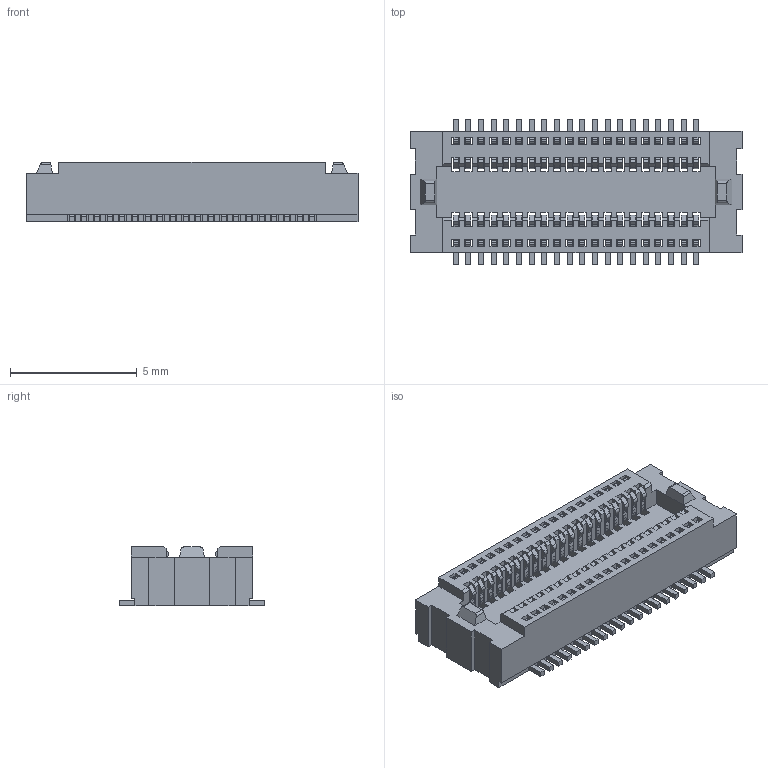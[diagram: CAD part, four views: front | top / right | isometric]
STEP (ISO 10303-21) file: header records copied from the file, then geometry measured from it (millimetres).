
FILE_DESCRIPTION(('CATIA V5 STEP Exchange'),'2;1');
FILE_NAME('F:\黄富鸿\板对板\0.5 单槽\无柱\母座\H2.35\HC-PBB05-1-40-F-H2.35-G1-R-06 (BTB0.5 单槽 母座 立贴 编带)-HCTL.stp','2026-01-21T01:31:18+00:00',('none'),('none'),'CATIA Version 5 Release 20 GA (IN-10)','CATIA V5 STEP AP203','none');
FILE_SCHEMA(('CONFIG_CONTROL_DESIGN'));
Length unit declared in the file: millimetre
Products named in the file (1): Part2
Bounding box: 13.1 x 5.76 x 2.35 mm (x, y, z)
Volume: 97.6 mm3; surface area: 656.9 mm2
Topology: 41 solids, 41 shells, 1814 faces, 5552 edges, 3700 vertices
Faces by surface type: plane 1250, cylinder 564
Entity records: 52888 total; most frequent: ORIENTED_EDGE 11104, CARTESIAN_POINT 9513, DIRECTION 5908, EDGE_CURVE 5552, VECTOR 4424, LINE 4424, VERTEX_POINT 3700, EDGE_LOOP 1854
